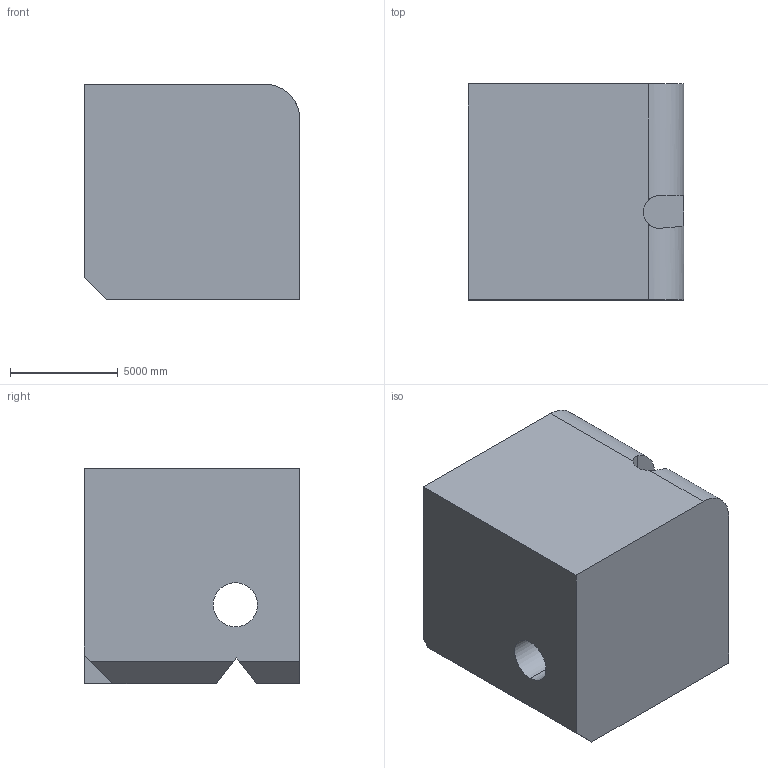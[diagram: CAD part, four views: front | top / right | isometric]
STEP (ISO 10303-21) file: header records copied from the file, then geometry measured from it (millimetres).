
FILE_DESCRIPTION (( 'STEP AP203' ), '1' );
FILE_NAME ('771.STEP', '2022-08-04T15:50:39', ( 'user' ), ( '' ), 'SwSTEP 2.0', 'SolidWorks 2021', '' );
FILE_SCHEMA (( 'CONFIG_CONTROL_DESIGN' ));
Length unit declared in the file: centimetre
Products named in the file (1): 771
Bounding box: 10000 x 10000 x 10000 mm (x, y, z)
Volume: 891065225597.8 mm3; surface area: 743783690.9 mm2
Topology: 1 solids, 1 shells, 31 faces, 81 edges, 54 vertices
Faces by surface type: plane 24, cylinder 7
Entity records: 1075 total; most frequent: CARTESIAN_POINT 220, ORIENTED_EDGE 162, DIRECTION 155, EDGE_CURVE 81, LINE 65, VECTOR 65, VERTEX_POINT 54, AXIS2_PLACEMENT_3D 45
